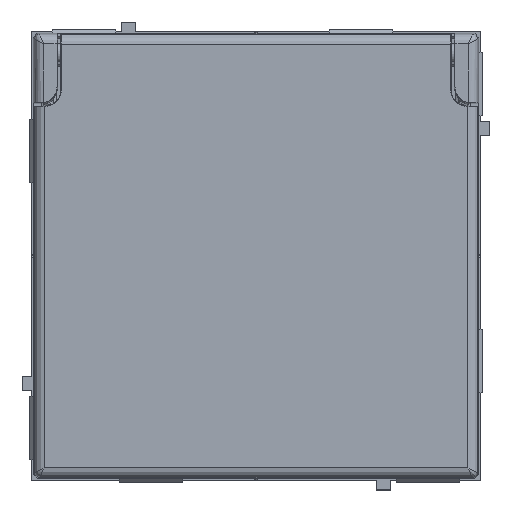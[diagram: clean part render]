
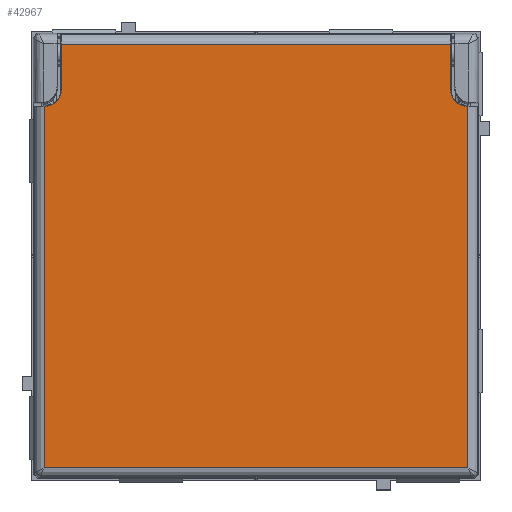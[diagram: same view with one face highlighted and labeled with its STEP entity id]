
A CAD part, top view. The second image highlights one B-rep face of the part: STEP entity #42967.
In plain terms, the highlighted planar face has unit normal (0, 0, 1).
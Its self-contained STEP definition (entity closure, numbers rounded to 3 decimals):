
#2470 = CIRCLE ( 'NONE', #88275, 2.7 ) ;
#6895 = DIRECTION ( 'NONE',  ( 0., 0., 1. ) ) ;
#7882 = CARTESIAN_POINT ( 'NONE',  ( 30.55, 33.234, 14.2 ) ) ;
#8012 = EDGE_CURVE ( 'NONE', #78768, #22385, #82257, .T. ) ;
#8201 = CARTESIAN_POINT ( 'NONE',  ( -33.25, 26.144, 14.2 ) ) ;
#9065 = CIRCLE ( 'NONE', #39161, 2.7 ) ;
#9641 = AXIS2_PLACEMENT_3D ( 'NONE', #67195, #80164, #19271 ) ;
#14233 = LINE ( 'NONE', #88555, #69246 ) ;
#15689 = VERTEX_POINT ( 'NONE', #66634 ) ;
#16493 = CARTESIAN_POINT ( 'NONE',  ( 33.276, -33.318, 14.2 ) ) ;
#17858 = DIRECTION ( 'NONE',  ( 0., 0., 1. ) ) ;
#18076 = CARTESIAN_POINT ( 'NONE',  ( -30.55, 35.044, 14.2 ) ) ;
#18872 = EDGE_CURVE ( 'NONE', #31852, #64908, #48904, .T. ) ;
#19051 = VECTOR ( 'NONE', #57956, 1000. ) ;
#19271 = DIRECTION ( 'NONE',  ( 0., 1., 0. ) ) ;
#20959 = CARTESIAN_POINT ( 'NONE',  ( 33.276, 23.444, 14.2 ) ) ;
#20965 = DIRECTION ( 'NONE',  ( 0., 1., 0. ) ) ;
#21116 = CARTESIAN_POINT ( 'NONE',  ( -30.55, 33.234, 14.2 ) ) ;
#21542 = EDGE_CURVE ( 'NONE', #54461, #15689, #9065, .T. ) ;
#22296 = VERTEX_POINT ( 'NONE', #36263 ) ;
#22385 = VERTEX_POINT ( 'NONE', #49719 ) ;
#24776 = EDGE_CURVE ( 'NONE', #50511, #27397, #68140, .T. ) ;
#25011 = CARTESIAN_POINT ( 'NONE',  ( 33.25, 26.144, 14.2 ) ) ;
#25687 = ORIENTED_EDGE ( 'NONE', *, *, #24776, .T. ) ;
#27397 = VERTEX_POINT ( 'NONE', #57287 ) ;
#29756 = CARTESIAN_POINT ( 'NONE',  ( 33.25, 23.444, 14.2 ) ) ;
#30239 = EDGE_CURVE ( 'NONE', #65225, #22296, #2470, .T. ) ;
#31852 = VERTEX_POINT ( 'NONE', #38562 ) ;
#34258 = DIRECTION ( 'NONE',  ( 1., 0., 0. ) ) ;
#34962 = EDGE_LOOP ( 'NONE', ( #66546, #25687, #71205, #75955, #77058, #59636, #53265, #66682, #44875, #72324 ) ) ;
#35114 = VECTOR ( 'NONE', #76161, 1000. ) ;
#35556 = DIRECTION ( 'NONE',  ( 0., -1., 0. ) ) ;
#36263 = CARTESIAN_POINT ( 'NONE',  ( -30.55, 26.144, 14.2 ) ) ;
#37614 = LINE ( 'NONE', #59975, #47966 ) ;
#38021 = DIRECTION ( 'NONE',  ( 0., 1., 0. ) ) ;
#38501 = DIRECTION ( 'NONE',  ( -1., 0., 0. ) ) ;
#38562 = CARTESIAN_POINT ( 'NONE',  ( -33.276, 23.444, 14.2 ) ) ;
#39161 = AXIS2_PLACEMENT_3D ( 'NONE', #25011, #17858, #38021 ) ;
#42967 = ADVANCED_FACE ( 'NONE', ( #59578 ), #52886, .F. ) ;
#44178 = CARTESIAN_POINT ( 'NONE',  ( -33.25, 23.444, 14.2 ) ) ;
#44765 = CARTESIAN_POINT ( 'NONE',  ( 30.55, 26.144, 14.2 ) ) ;
#44776 = VECTOR ( 'NONE', #34258, 1000. ) ;
#44875 = ORIENTED_EDGE ( 'NONE', *, *, #68158, .F. ) ;
#46281 = LINE ( 'NONE', #18076, #73317 ) ;
#47966 = VECTOR ( 'NONE', #38501, 1000. ) ;
#48264 = DIRECTION ( 'NONE',  ( 0., 1., 0. ) ) ;
#48904 = LINE ( 'NONE', #76185, #65827 ) ;
#49719 = CARTESIAN_POINT ( 'NONE',  ( 33.276, 23.444, 14.2 ) ) ;
#50511 = VERTEX_POINT ( 'NONE', #7882 ) ;
#50780 = EDGE_CURVE ( 'NONE', #64908, #78768, #81692, .T. ) ;
#52886 = PLANE ( 'NONE',  #9641 ) ;
#53036 = EDGE_CURVE ( 'NONE', #54461, #50511, #14233, .T. ) ;
#53265 = ORIENTED_EDGE ( 'NONE', *, *, #50780, .T. ) ;
#54438 = EDGE_CURVE ( 'NONE', #65225, #31852, #37614, .T. ) ;
#54461 = VERTEX_POINT ( 'NONE', #44765 ) ;
#57287 = CARTESIAN_POINT ( 'NONE',  ( -30.55, 33.234, 14.2 ) ) ;
#57956 = DIRECTION ( 'NONE',  ( 1., 0., 0. ) ) ;
#59578 = FACE_OUTER_BOUND ( 'NONE', #34962, .T. ) ;
#59636 = ORIENTED_EDGE ( 'NONE', *, *, #18872, .T. ) ;
#59975 = CARTESIAN_POINT ( 'NONE',  ( 0., 23.444, 14.2 ) ) ;
#64908 = VERTEX_POINT ( 'NONE', #72571 ) ;
#65225 = VERTEX_POINT ( 'NONE', #44178 ) ;
#65827 = VECTOR ( 'NONE', #76625, 1000. ) ;
#66546 = ORIENTED_EDGE ( 'NONE', *, *, #53036, .T. ) ;
#66634 = CARTESIAN_POINT ( 'NONE',  ( 33.25, 23.444, 14.2 ) ) ;
#66682 = ORIENTED_EDGE ( 'NONE', *, *, #8012, .T. ) ;
#67131 = EDGE_CURVE ( 'NONE', #22296, #27397, #46281, .T. ) ;
#67195 = CARTESIAN_POINT ( 'NONE',  ( 0., -0.042, 14.2 ) ) ;
#67900 = VECTOR ( 'NONE', #48264, 1000. ) ;
#68140 = LINE ( 'NONE', #21116, #35114 ) ;
#68158 = EDGE_CURVE ( 'NONE', #15689, #22385, #70090, .T. ) ;
#68280 = CARTESIAN_POINT ( 'NONE',  ( 34.75, -33.318, 14.2 ) ) ;
#69246 = VECTOR ( 'NONE', #20965, 1000. ) ;
#70090 = LINE ( 'NONE', #29756, #19051 ) ;
#71205 = ORIENTED_EDGE ( 'NONE', *, *, #67131, .F. ) ;
#72324 = ORIENTED_EDGE ( 'NONE', *, *, #21542, .F. ) ;
#72571 = CARTESIAN_POINT ( 'NONE',  ( -33.276, -33.318, 14.2 ) ) ;
#73317 = VECTOR ( 'NONE', #85662, 1000. ) ;
#75955 = ORIENTED_EDGE ( 'NONE', *, *, #30239, .F. ) ;
#76161 = DIRECTION ( 'NONE',  ( -1., 0., 0. ) ) ;
#76185 = CARTESIAN_POINT ( 'NONE',  ( -33.276, -34.792, 14.2 ) ) ;
#76625 = DIRECTION ( 'NONE',  ( 0., -1., 0. ) ) ;
#77058 = ORIENTED_EDGE ( 'NONE', *, *, #54438, .T. ) ;
#78768 = VERTEX_POINT ( 'NONE', #16493 ) ;
#80164 = DIRECTION ( 'NONE',  ( 0., 0., -1. ) ) ;
#81692 = LINE ( 'NONE', #68280, #44776 ) ;
#82257 = LINE ( 'NONE', #20959, #67900 ) ;
#85662 = DIRECTION ( 'NONE',  ( 0., 1., 0. ) ) ;
#88275 = AXIS2_PLACEMENT_3D ( 'NONE', #8201, #6895, #35556 ) ;
#88555 = CARTESIAN_POINT ( 'NONE',  ( 30.55, -0.042, 14.2 ) ) ;
